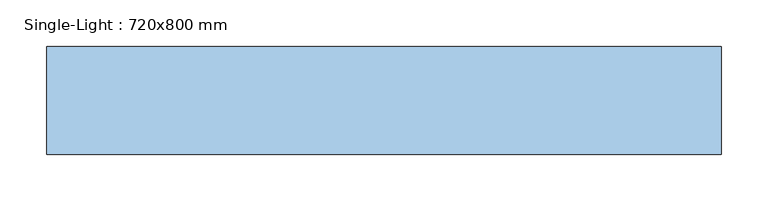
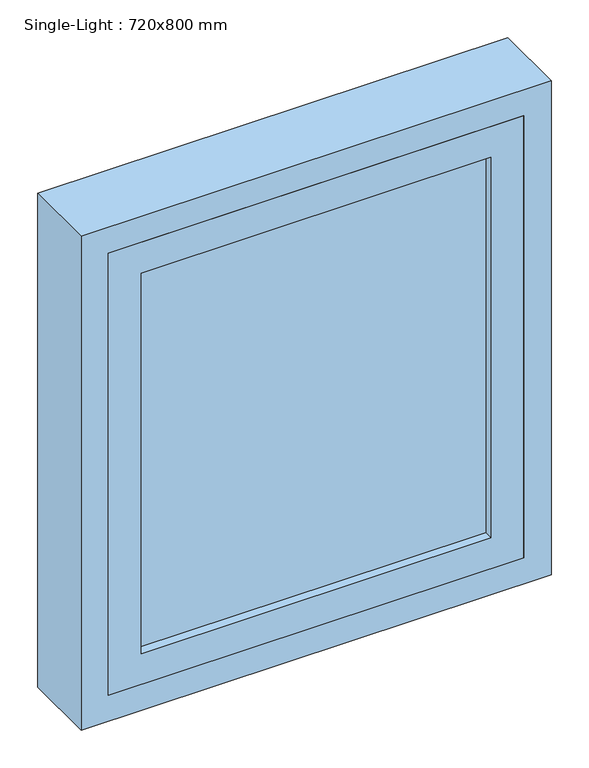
"""IFC4 building model written with IfcOpenShell, lengths in millimetres: window geometry, Single-Light : 720x800 mm."""

import ifcopenshell
import ifcopenshell.guid

model = None  # the IFC model being written
_history = None  # IfcOwnerHistory: only IFC2X3 demands one
_inside = {}  # id of a spatial element -> (the spatial element, [elements in it])
_under = {}  # id of a project, library or spatial element -> (it, [spatial elements below it])
_declared = {}  # id of a project -> (the project, [libraries it declares])
_typed = {}  # id of a type object -> (the type object, [elements of that type])
_made_of = {}  # id of a material, layer set ... -> (it, [elements and type objects made of it])


def new_model(schema):
    """Start an empty IFC model of exactly this schema.

    Asked for "IFC4X3", IfcOpenShell would pick the latest addendum, in which some entities
    have other attributes; the version numbers below select the first issue.
    IFC2X3 requires an IfcOwnerHistory on every rooted entity: one is made here for all.
    """
    global model, _history
    if schema == "IFC4X3":
        model = ifcopenshell.file(schema_version=(4, 3, 0, 0))
    else:
        model = ifcopenshell.file(schema=schema)
    _inside.clear()
    _under.clear()
    _declared.clear()
    _typed.clear()
    _made_of.clear()
    _history = None
    if model.schema == "IFC2X3":
        org = make("IfcOrganization", Name="unknown")
        user = make(
            "IfcPersonAndOrganization",
            ThePerson=make("IfcPerson", FamilyName="unknown"),
            TheOrganization=org,
        )
        app = make(
            "IfcApplication",
            ApplicationDeveloper=org,
            Version="unknown",
            ApplicationFullName="unknown",
            ApplicationIdentifier="unknown",
        )
        _history = make(
            "IfcOwnerHistory",
            OwningUser=user,
            OwningApplication=app,
            ChangeAction="ADDED",
            CreationDate=0,
        )
    return model


def make(cls, **values):
    """One entity of the class cls with the attributes given. An attribute that is None is left unset."""
    return model.create_entity(
        cls, **{name: value for name, value in values.items() if value is not None}
    )


def rooted(cls, **values):
    """An entity with a GlobalId (a new one), such as an element, a storey or a relation."""
    return make(cls, GlobalId=ifcopenshell.guid.new(), OwnerHistory=_history, **values)


def si_unit(unit_type, name, prefix=None):
    """IfcSIUnit, for example si_unit("LENGTHUNIT", "METRE", prefix="MILLI")."""
    return make("IfcSIUnit", UnitType=unit_type, Prefix=prefix, Name=name)


def assignment(units):
    """IfcUnitAssignment: the units of a project."""
    return None if units is None else make("IfcUnitAssignment", Units=units)


def point(xyz):
    """IfcCartesianPoint."""
    return None if xyz is None else make("IfcCartesianPoint", Coordinates=xyz)


def direction(xyz):
    """IfcDirection."""
    return None if xyz is None else make("IfcDirection", DirectionRatios=xyz)


def frame(location, z_axis=None, x_axis=None):
    """IfcAxis2Placement3D, a coordinate frame: its origin and axes. An axis left out is left unset."""
    return make(
        "IfcAxis2Placement3D",
        Location=point(location),
        Axis=direction(z_axis),
        RefDirection=direction(x_axis),
    )


def origin():
    """The frame at (0, 0, 0) with its axes left unset."""
    return frame((0.0, 0.0, 0.0))


def place(relative_to, where):
    """IfcLocalPlacement: puts the frame where relative to a parent placement (None: the world)."""
    return make(
        "IfcLocalPlacement", PlacementRelTo=relative_to, RelativePlacement=where
    )


def context(
    kind, dimensions, precision=None, world=None, true_north=None, identifier=None
):
    """IfcGeometricRepresentationContext, for example the 3D "Model" context."""
    return make(
        "IfcGeometricRepresentationContext",
        ContextIdentifier=identifier,
        ContextType=kind,
        CoordinateSpaceDimension=dimensions,
        Precision=precision,
        WorldCoordinateSystem=world,
        TrueNorth=true_north,
    )


def project(units=None, contexts=None):
    """IfcProject with its units and contexts."""
    return rooted(
        "IfcProject",
        Name="project",
        RepresentationContexts=contexts,
        UnitsInContext=assignment(units),
    )


def spatial(cls, under=None, at=None, **own):
    """A site, building, storey or space (cls), placed at a placement, below another one or the project."""
    s = rooted(cls, ObjectPlacement=at, **own)
    if under is not None:
        _under.setdefault(under.id(), (under, []))[1].append(s)
    return s


def polyline(points):
    """IfcPolyline through the points."""
    return make("IfcPolyline", Points=[point(p) for p in points])


def outline(outer, holes=None, kind="AREA"):
    """IfcArbitraryClosedProfileDef: a profile drawn as a closed curve; with holes, ...WithVoids."""
    if holes is None:
        return make("IfcArbitraryClosedProfileDef", ProfileType=kind, OuterCurve=outer)
    return make(
        "IfcArbitraryProfileDefWithVoids",
        ProfileType=kind,
        OuterCurve=outer,
        InnerCurves=holes,
    )


def extrude(swept, where, along, depth):
    """IfcExtrudedAreaSolid: the profile swept, set in the frame where, extruded along a direction by depth."""
    return make(
        "IfcExtrudedAreaSolid",
        SweptArea=swept,
        Position=where,
        ExtrudedDirection=direction(along),
        Depth=depth,
    )


def faces_of(points, faces, orient=None, outer=None):
    """IfcFace entities. A face is a list of loops; a loop is a list of indices into points, from 0.

    orient and outer hold one flag for each loop. By default every Orientation is true, the
    first loop of a face is its IfcFaceOuterBound and the others are IfcFaceBound.
    """
    made = []
    for i, loops in enumerate(faces):
        bounds = []
        for j, loop in enumerate(loops):
            is_outer = j == 0 if outer is None else outer[i][j]
            bounds.append(
                make(
                    "IfcFaceOuterBound" if is_outer else "IfcFaceBound",
                    Bound=make("IfcPolyLoop", Polygon=[points[k] for k in loop]),
                    Orientation=True if orient is None else orient[i][j],
                )
            )
        made.append(make("IfcFace", Bounds=bounds))
    return made


def faceted_brep(points, faces, orient=None, outer=None, voids=None):
    """IfcFacetedBrep: a solid bounded by flat faces; with voids (closed shells), ...WithVoids."""
    shared = [point(p) for p in points]
    hull = make("IfcClosedShell", CfsFaces=faces_of(shared, faces, orient, outer))
    if voids is None:
        return make("IfcFacetedBrep", Outer=hull)
    return make(
        "IfcFacetedBrepWithVoids",
        Outer=hull,
        Voids=[
            make(cls, CfsFaces=faces_of(shared, fs, o, b)) for cls, fs, o, b in voids
        ],
    )


def shape(context_of_items, identifier, shape_type, items):
    """IfcShapeRepresentation: the items that make up one representation, for example the "Body"."""
    return make(
        "IfcShapeRepresentation",
        ContextOfItems=context_of_items,
        RepresentationIdentifier=identifier,
        RepresentationType=shape_type,
        Items=items,
    )


def source(mapping_origin, context_of_items, identifier, shape_type, items):
    """IfcRepresentationMap: a shape defined once, which mapped items show again and again."""
    return make(
        "IfcRepresentationMap",
        MappingOrigin=mapping_origin,
        MappedRepresentation=shape(context_of_items, identifier, shape_type, items),
    )


def transform(
    local_origin,
    x_axis=None,
    y_axis=None,
    z_axis=None,
    scale=None,
    scale2=None,
    scale3=None,
    uniform=True,
):
    """IfcCartesianTransformationOperator3D, or its non-uniform kind. x_axis, y_axis, z_axis: its Axis1, 2, 3."""
    if uniform:
        return make(
            "IfcCartesianTransformationOperator3D",
            Axis1=direction(x_axis),
            Axis2=direction(y_axis),
            LocalOrigin=point(local_origin),
            Scale=scale,
            Axis3=direction(z_axis),
        )
    return make(
        "IfcCartesianTransformationOperator3DnonUniform",
        Axis1=direction(x_axis),
        Axis2=direction(y_axis),
        LocalOrigin=point(local_origin),
        Scale=scale,
        Axis3=direction(z_axis),
        Scale2=scale2,
        Scale3=scale3,
    )


def mapped(mapping_source, mapping_target):
    """IfcMappedItem: shows the shape of a source again, moved by a transform."""
    return make(
        "IfcMappedItem", MappingSource=mapping_source, MappingTarget=mapping_target
    )


def made_of(thing, what):
    """Note that an element or type object is made of a material, layer set ...; save() writes the relation."""
    if what is not None:
        _made_of.setdefault(what.id(), (what, []))[1].append(thing)
    return thing


def element(
    cls,
    number,
    at=None,
    inside=None,
    cuts=None,
    type_object=None,
    material=None,
    context=None,
    identifier="Body",
    shape_type=None,
    held_by="IfcProductDefinitionShape",
    body=None,
    shapes=None,
    **own,
):
    """One element of the class cls, such as IfcWall. Its Tag is "e" and its number.

    at: its placement. inside: the storey or other place that contains it. cuts: it is an
    opening in that element (IfcRelVoidsElement). A single representation is given by context,
    identifier, shape_type and body (its items); several are given by shapes. held_by: the class
    of the entity that holds the representations. save() writes the other relations.
    """
    e = rooted(cls, Tag="e%d" % number, ObjectPlacement=at, **own)
    if body is not None:
        shapes = [shape(context, identifier, shape_type, body)]
    if shapes is not None:
        e.Representation = make(held_by, Representations=shapes)
    if inside is not None:
        _inside.setdefault(inside.id(), (inside, []))[1].append(e)
    if cuts is not None:
        rooted(
            "IfcRelVoidsElement", RelatingBuildingElement=cuts, RelatedOpeningElement=e
        )
    if type_object is not None:
        _typed.setdefault(type_object.id(), (type_object, []))[1].append(e)
    return made_of(e, material)


def aggregate(whole, parts):
    """IfcRelAggregates: a whole, such as a stair, and the parts it consists of."""
    return rooted("IfcRelAggregates", RelatingObject=whole, RelatedObjects=parts)


def save(model, path):
    """Write the relations noted so far, then the file.

    IfcRelAggregates (storeys below a building ...), IfcRelContainedInSpatialStructure (elements
    in a storey), IfcRelDefinesByType, IfcRelAssociatesMaterial and IfcRelDeclares: one each for
    every whole, place, type object, material and project.
    """
    for whole, parts in _under.values():
        aggregate(whole, parts)
    for where, things in _inside.values():
        rooted(
            "IfcRelContainedInSpatialStructure",
            RelatedElements=things,
            RelatingStructure=where,
        )
    for kind, things in _typed.values():
        rooted("IfcRelDefinesByType", RelatedObjects=things, RelatingType=kind)
    for what, things in _made_of.values():
        rooted("IfcRelAssociatesMaterial", RelatedObjects=things, RelatingMaterial=what)
    for by, libraries in _declared.values():
        rooted("IfcRelDeclares", RelatingContext=by, RelatedDefinitions=libraries)
    model.write(path)


def single_light_720x800_mm_5dac0888(model_context):
    return source(origin(), model_context, "Body", "SolidModel", [
        extrude(outline(polyline([(-268.0, -176.0), (-268.0, -154.0), (268.0, -154.0), (268.0, -176.0), (-268.0, -176.0)])), frame((0.0, 0.0, 892.0), z_axis=(0.0, 0.0, 1.0), x_axis=(1.0, 0.0, 0.0)), (0.0, 0.0, 1.0), 616.0),
        extrude(outline(polyline([(1558.0, -318.0), (842.0, -318.0), (842.0, 318.0), (1558.0, 318.0), (1558.0, -318.0)]), holes=[polyline([(892.0, -268.0), (1508.0, -268.0), (1508.0, 268.0), (892.0, 268.0), (892.0, -268.0)])]), frame((0.0, -190.0, 0.0), z_axis=(0.0, 1.0, 0.0), x_axis=(0.0, 0.0, 1.0)), (0.0, 0.0, 1.0), 50.0),
        faceted_brep([(-318.0, -190.0, 1558.0), (-318.0, -190.0, 842.0), (-318.0, -140.0, 842.0), (-318.0, -140.0, 1558.0), (-360.0, -190.0, 800.0), (360.0, -190.0, 800.0), (360.0, -190.0, 1600.0), (-360.0, -190.0, 1600.0), (318.0, -190.0, 1558.0), (318.0, -190.0, 842.0), (318.0, -140.0, 842.0), (318.0, -140.0, 1558.0), (-360.0, -75.0, 1600.0), (-360.0, -75.0, 800.0), (360.0, -75.0, 800.0), (360.0, -75.0, 1600.0), (-303.0, -140.0, 1543.0), (303.0, -140.0, 1543.0), (303.0, -140.0, 857.0), (-303.0, -140.0, 857.0), (-303.0, -75.0, 857.0), (-303.0, -75.0, 1543.0), (303.0, -75.0, 857.0), (303.0, -75.0, 1543.0)], [[[0, 1, 2, 3]], [[4, 5, 6, 7], [0, 8, 9, 1]], [[9, 10, 2, 1]], [[10, 9, 8, 11]], [[12, 13, 4, 7]], [[6, 5, 14, 15]], [[13, 14, 5, 4]], [[3, 2, 10, 11], [16, 17, 18, 19]], [[16, 19, 20, 21]], [[20, 19, 18, 22]], [[23, 22, 18, 17]], [[12, 15, 14, 13], [21, 20, 22, 23]], [[0, 3, 11, 8]], [[16, 21, 23, 17]], [[6, 15, 12, 7]]]),
    ])


if __name__ == "__main__":
    model = new_model("IFC4")
    model_context = context("Model", 3, world=origin())
    ifc_project = project(units=[si_unit("LENGTHUNIT", "METRE", prefix="MILLI")], contexts=[model_context])
    site = spatial("IfcSite", under=ifc_project)
    building = spatial("IfcBuilding", under=site)
    placement = place(None, origin())
    single_light_720x800_mm_shape = single_light_720x800_mm_5dac0888(model_context)
    element("IfcWindow", 1, ObjectType="Single-Light : 720x800 mm", at=placement, inside=building, context=model_context, shape_type="MappedRepresentation", body=[
        mapped(single_light_720x800_mm_shape, transform((0.0, 0.0, 0.0), x_axis=(1.0, 0.0, 0.0), y_axis=(0.0, 1.0, 0.0), z_axis=(0.0, 0.0, 1.0))),
    ])
    save(model, "model.ifc")
